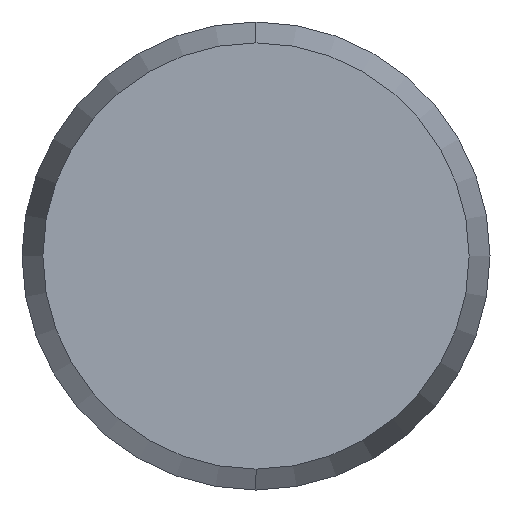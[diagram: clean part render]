
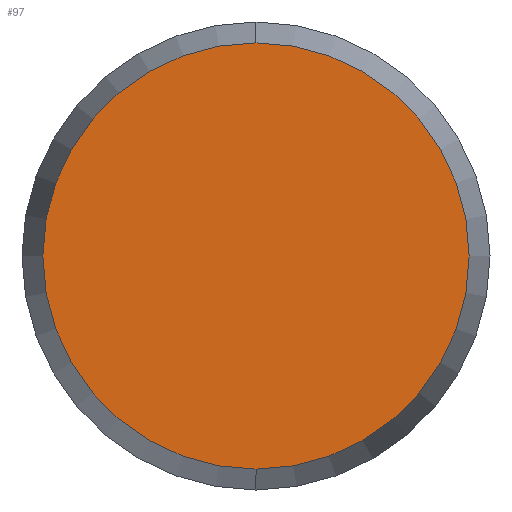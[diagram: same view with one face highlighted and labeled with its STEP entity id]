
A CAD part, left-side view. The second image highlights one B-rep face of the part: STEP entity #97.
In plain terms, the highlighted planar face has unit normal (-1, 0, 0).
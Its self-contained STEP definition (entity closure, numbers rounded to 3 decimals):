
#90 = EDGE_CURVE ( 'NONE', #121, #128, #156, .T. ) ;
#94 = ORIENTED_EDGE ( 'NONE', *, *, #127, .F. ) ;
#95 = EDGE_LOOP ( 'NONE', ( #94, #98 ) ) ;
#97 = ADVANCED_FACE ( 'NONE', ( #182 ), #184, .F. ) ;
#98 = ORIENTED_EDGE ( 'NONE', *, *, #90, .F. ) ;
#121 = VERTEX_POINT ( 'NONE', #209 ) ;
#127 = EDGE_CURVE ( 'NONE', #128, #121, #201, .T. ) ;
#128 = VERTEX_POINT ( 'NONE', #268 ) ;
#153 = DIRECTION ( 'NONE',  ( 0., 0., -1. ) ) ;
#154 = AXIS2_PLACEMENT_3D ( 'NONE', #157, #159, #153 ) ;
#156 = CIRCLE ( 'NONE', #154, 2.732 ) ;
#157 = CARTESIAN_POINT ( 'NONE',  ( -5., 0., 0. ) ) ;
#159 = DIRECTION ( 'NONE',  ( 1., 0., 0. ) ) ;
#182 = FACE_OUTER_BOUND ( 'NONE', #95, .T. ) ;
#183 = AXIS2_PLACEMENT_3D ( 'NONE', #189, #188, #187 ) ;
#184 = PLANE ( 'NONE',  #183 ) ;
#187 = DIRECTION ( 'NONE',  ( 0., 0., -1. ) ) ;
#188 = DIRECTION ( 'NONE',  ( 1., 0., 0. ) ) ;
#189 = CARTESIAN_POINT ( 'NONE',  ( -5., 0., 0. ) ) ;
#194 = CARTESIAN_POINT ( 'NONE',  ( -5., 0., 0. ) ) ;
#195 = DIRECTION ( 'NONE',  ( 1., 0., 0. ) ) ;
#200 = AXIS2_PLACEMENT_3D ( 'NONE', #194, #195, #219 ) ;
#201 = CIRCLE ( 'NONE', #200, 2.732 ) ;
#209 = CARTESIAN_POINT ( 'NONE',  ( -5., 0., -2.732 ) ) ;
#219 = DIRECTION ( 'NONE',  ( 0., 0., -1. ) ) ;
#268 = CARTESIAN_POINT ( 'NONE',  ( -5., 0., 2.732 ) ) ;
